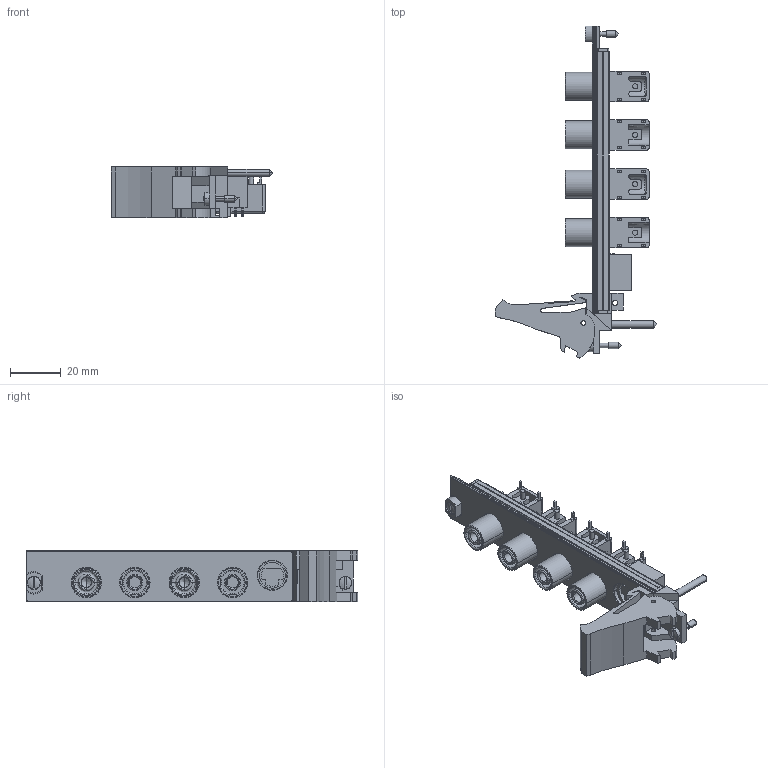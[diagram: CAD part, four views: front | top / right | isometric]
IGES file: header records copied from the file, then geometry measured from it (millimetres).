
Start section:  PTC IGES file: cd_pxi-4070.igs
Global section: file name: cd_pxi-4070.igs; native system: Pro/ENGINEER by Parametric Technology Corporation; preprocessor: 2006080; author: jjorden; organization: Unknown; date: 091207.141751; units: inch
Bounding box: 63.53 x 130.5 x 20.31 mm (x, y, z)
Surface area: 28399.5 mm2 (no closed solid volume)
Topology: 0 solids, 0 shells, 784 faces, 4004 edges, 3992 vertices
Faces by surface type: bspline 434, revolution 278, extrusion 72
